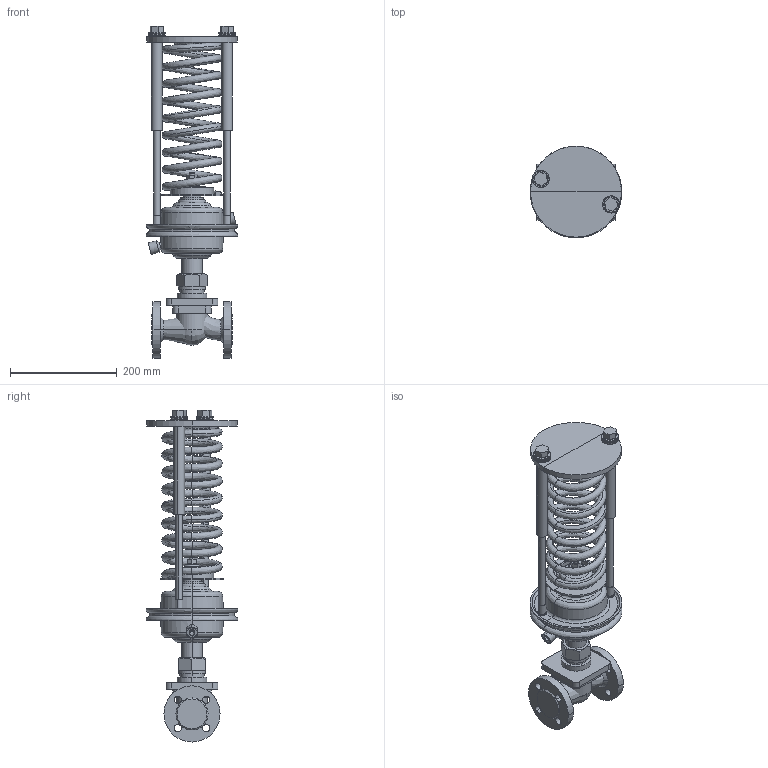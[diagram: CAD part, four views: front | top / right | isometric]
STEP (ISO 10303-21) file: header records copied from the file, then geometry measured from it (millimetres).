
FILE_DESCRIPTION(/* description */ (''),/* implementation_level */ '2;1');
FILE_NAME(/* name */ 'ETM_Регулятор давления_УРРД_НЗ_РД_DN20 0.05—0.3 МПа',/* time_stamp */ '2026-04-24T18:34:18+03:00',/* author */ (''),/* organization */ (''),/* preprocessor_version */ 'ST-DEVELOPER v20',/* originating_system */ '',/* authorisation */ '');
FILE_SCHEMA (('AP242_MANAGED_MODEL_BASED_3D_ENGINEERING_MIM_LF { 1 0 10303 442 1 1 4 }'));
Length unit declared in the file: millimetre
Products named in the file (13): TopLevelAssembly; Выдавливание; Переход; Выдавливание_
1; Переход_1; Переход_2; Переход_3; Выдавливание_
2; Объемная геометрия 
присоединена; Выдавливание_
3; Объемная геометрия 
присоединена_1; Выдавливание_
4; Пружина красная
Assembly tree (12 placements, depth 2):
  TopLevelAssembly
    Выдавливание
    Переход
    Выдавливание_
1
    Переход_1
    Переход_2
    Переход_3
    Выдавливание_
2
    Объемная геометрия 
присоединена
    Выдавливание_
3
    Объемная геометрия 
присоединена_1
    Выдавливание_
4
    Пружина красная
Bounding box: 171.97 x 171.97 x 620.85 mm (x, y, z)
Volume: 2854003.2 mm3; surface area: 558437.7 mm2
Topology: 31 solids, 31 shells, 518 faces, 1041 edges, 565 vertices
Faces by surface type: plane 189, bspline 177, cylinder 142, cone 10
Entity records: 16518 total; most frequent: CARTESIAN_POINT 5341, DIRECTION 2349, ORIENTED_EDGE 2078, EDGE_CURVE 1039, AXIS2_PLACEMENT_3D 978, CIRCLE 611, VERTEX_POINT 565, EDGE_LOOP 540
